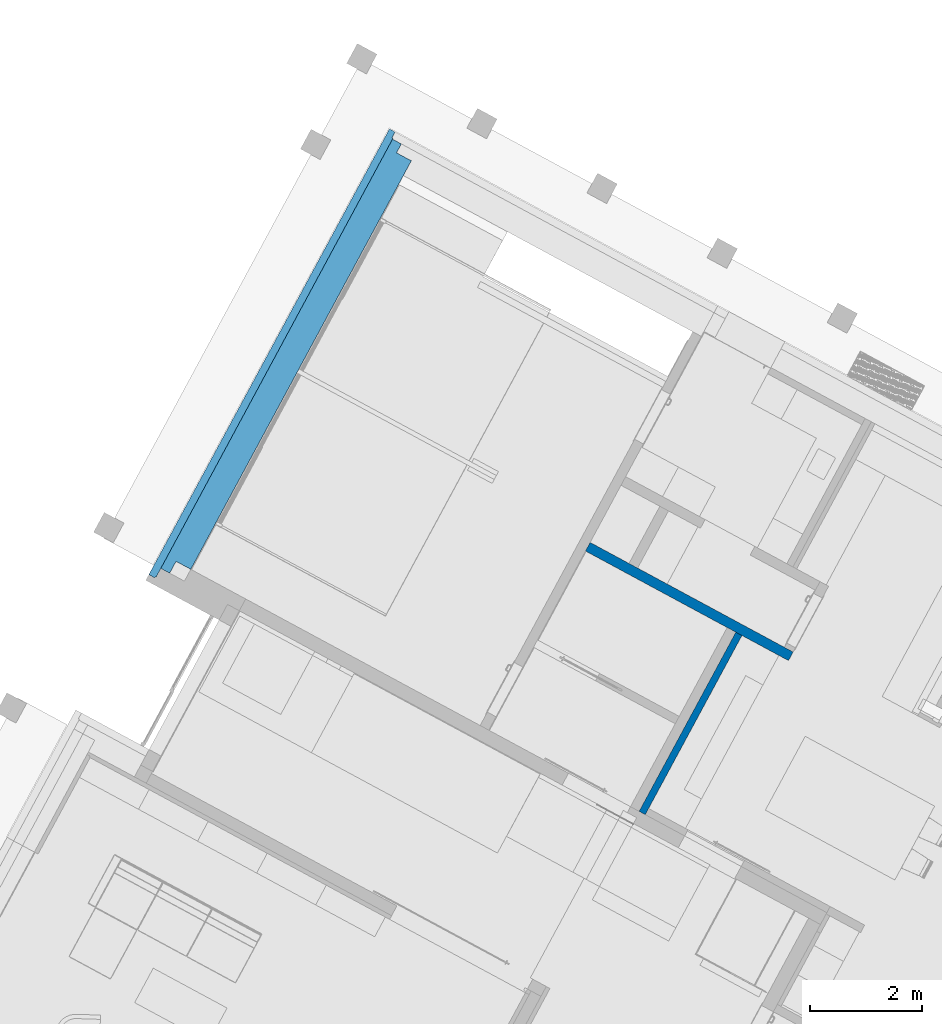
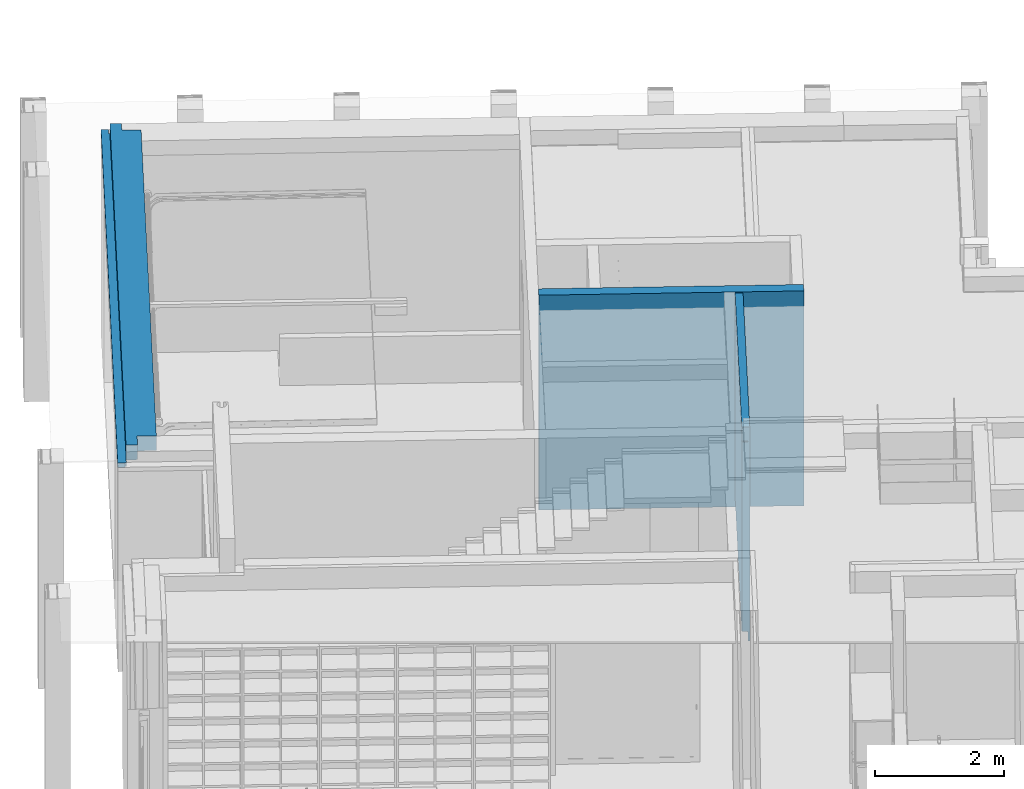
# One storey, part 17 of 52: 3 walls.
"""IFC2X3 building model written with IfcOpenShell, lengths in metres."""

from ifc_helpers import new_model, entity, si_unit, converted_unit, derived_unit, money_unit, direction, frame, origin_with_axes, place, context, subcontext, project, spatial, faceted_brep, material, material_list, type_object, element, save


model = new_model("IFC2X3")

# Units and contexts
model_context = context("Model", 3, precision=1e-05, world=origin_with_axes(), true_north=direction((0.0, 1.0)))
body_context = subcontext(model_context, "Body", "Model", "MODEL_VIEW")
ifc_project = project(units=[si_unit("LENGTHUNIT", "METRE"), si_unit("AREAUNIT", "SQUARE_METRE"), si_unit("VOLUMEUNIT", "CUBIC_METRE"), converted_unit("PLANEANGLEUNIT", "DEGREE", entity("IfcPlaneAngleMeasure", 0.0174532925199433), si_unit("PLANEANGLEUNIT", "RADIAN"), dimensions=[0, 0, 0, 0, 0, 0, 0]), money_unit("EUR"), converted_unit("TIMEUNIT", "Year", entity("IfcTimeMeasure", 31556926.0), si_unit("TIMEUNIT", "SECOND"), dimensions=[0, 0, 1, 0, 0, 0, 0]), si_unit("MASSUNIT", "GRAM", prefix="KILO"), si_unit("THERMODYNAMICTEMPERATUREUNIT", "DEGREE_CELSIUS"), si_unit("LUMINOUSINTENSITYUNIT", "LUMEN"), si_unit("ENERGYUNIT", "JOULE", prefix="MEGA"), derived_unit("THERMALCONDUCTANCEUNIT", [(si_unit("POWERUNIT", "WATT"), 1), (si_unit("LENGTHUNIT", "METRE"), -1), (si_unit("THERMODYNAMICTEMPERATUREUNIT", "KELVIN"), -1)]), derived_unit("SPECIFICHEATCAPACITYUNIT", [(si_unit("ENERGYUNIT", "JOULE"), 1), (si_unit("MASSUNIT", "GRAM", prefix="KILO"), -1), (si_unit("THERMODYNAMICTEMPERATUREUNIT", "KELVIN"), -1)]), derived_unit("MASSDENSITYUNIT", [(si_unit("MASSUNIT", "GRAM", prefix="KILO"), 1), (si_unit("VOLUMEUNIT", "CUBIC_METRE"), -1)])], contexts=[model_context])

# Site, building, storey
site_placement = place(None, frame((-3.949935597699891, 1.740105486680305, 0.0), z_axis=(0.0, 0.0, 1.0), x_axis=(0.8799804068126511, -0.475009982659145, 0.0)))
site = spatial("IfcSite", under=ifc_project, at=site_placement, Name="Gelände", CompositionType="ELEMENT")
building_placement = place(site_placement, origin_with_axes())
building = spatial("IfcBuilding", under=site, at=building_placement, Name="Gebäude", CompositionType="ELEMENT")
storey_placement = place(building_placement, origin_with_axes())
storey = spatial("IfcBuildingStorey", under=building, at=storey_placement, Name="Erdgeschoss", CompositionType="ELEMENT", Elevation=0.0)

# Walls
ifc_material_1 = material(Name="_SIWH - MW Kalksandstein")
wall_type_1 = type_object("IfcWallType", Name="_SIWH - WI | KS 17,5 | 17,5cm 175", PredefinedType="NOTDEFINED")
wall_1_placement = place(storey_placement, frame((10.53741421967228, 14.53808985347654, -0.18), z_axis=(0.0, 0.0, 1.0), x_axis=(0.9999999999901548, 4.437408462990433e-06, 0.0)))
element("IfcWall", 1, at=wall_1_placement, inside=storey, type_object=wall_type_1, material=ifc_material_1, Name="I-Wand028", context=body_context, shape_type="Brep", body=[
    faceted_brep([(5.735271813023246e-09, 0.1750000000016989, 0.0), (4.125546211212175, 0.1749816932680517, 0.0), (4.125546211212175, -1.830673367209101e-05, 0.0), (0.0, 0.0, 0.0), (5.735271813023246e-09, 0.1750000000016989, 4.080000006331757), (4.125546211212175, 0.1749816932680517, 4.080000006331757), (4.125546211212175, -1.830673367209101e-05, 4.080000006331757), (0.0, 0.0, 4.080000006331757)], [[[0, 1, 2, 3]], [[4, 5, 1, 0]], [[6, 2, 1, 5]], [[3, 2, 6, 7]], [[7, 4, 0, 3]], [[7, 6, 5, 4]]]),
])
ifc_material_2 = material(Name="_SIWH - MW Vormauerziegel")
ifc_material_3 = material(Name="_SIWH - Luftschicht vertikal")
ifc_material_4 = material(Name="_SIWH - Dämmung, weich Mineralwolle")
ifc_material_5 = material(Name="_SIWH - Beton, Stahlbeton")
ifc_material_list_1 = material_list([ifc_material_2, ifc_material_3, ifc_material_4, ifc_material_5])
wall_type_2 = type_object("IfcWallType", Name="_SIWH - Sturz Außenwand EG Garage 615 x 280", PredefinedType="NOTDEFINED")
wall_2_placement = place(storey_placement, frame((4.182518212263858, 10.65780061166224, 3.900000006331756), z_axis=(0.0, 0.0, 1.0), x_axis=(-4.263932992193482e-06, 0.9999999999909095, 0.0)))
element("IfcWall", 2, at=wall_2_placement, inside=storey, type_object=wall_type_2, material=ifc_material_list_1, Name="A-Wand018", context=body_context, shape_type="Brep", body=[
    faceted_brep([(-0.199998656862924, 0.3149999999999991, -0.2000000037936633), (-0.1999991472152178, 0.1999999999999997, -0.2000000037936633), (8.857501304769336, 0.1999999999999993, -0.1999999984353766), (8.857501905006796, 0.3149999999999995, -0.1999999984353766), (-0.1999991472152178, 0.1999999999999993, -0.2800000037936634), (-0.199998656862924, 0.3149999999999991, -0.2800000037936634), (8.857501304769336, 0.1999999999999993, -0.2800000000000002), (8.8575019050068, 0.3149999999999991, -0.2800000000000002)], [[[0, 1, 2, 3]], [[4, 1, 0, 5]], [[1, 4, 6, 2]], [[7, 3, 2, 6]], [[5, 0, 3, 7]], [[4, 5, 7, 6]]]),
    faceted_brep([(8.74250120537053, 0.1799999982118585, -0.2800000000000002), (8.74250120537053, 0.1799999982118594, -0.2000000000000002), (-0.1799992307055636, 0.1799999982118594, -0.2000000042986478), (-0.1799992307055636, 0.1799999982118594, -0.2800000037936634), (8.742501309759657, 0.1999999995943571, -0.2000000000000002), (8.742501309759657, 0.1999999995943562, -0.2800000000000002), (-0.1799991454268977, 0.1999999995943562, -0.2000000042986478), (-0.1799991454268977, 0.1999999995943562, -0.2800000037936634)], [[[0, 1, 2, 3]], [[4, 1, 0, 5]], [[1, 4, 6, 2]], [[3, 2, 6, 7]], [[5, 0, 3, 7]], [[4, 5, 7, 6]]]),
    faceted_brep([(7.671854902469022e-07, 0.1799999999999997, -4.2952486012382e-09), (-3.224478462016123e-10, 0.0, -4.2952486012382e-09), (8.722500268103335, 0.0, -5.96047655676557e-10), (8.722501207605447, 0.1799999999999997, -5.96047655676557e-10), (-3.224567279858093e-10, -1.788142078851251e-09, -0.2000000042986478), (7.671854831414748e-07, 0.1799999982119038, -0.2000000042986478), (-3.224478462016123e-10, 0.0, -0.2800000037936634), (8.722500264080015, 0.0, -0.2800000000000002), (8.72250026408, -1.788119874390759e-09, -0.1999999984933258), (8.72250120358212, 0.179999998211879, -0.1999999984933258), (7.671854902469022e-07, 0.1800000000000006, -0.2800000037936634), (8.722501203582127, 0.1799999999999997, -0.2800000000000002)], [[[0, 1, 2, 3]], [[4, 1, 0, 5]], [[1, 4, 6, 7, 8, 2]], [[8, 9, 3, 2]], [[5, 0, 3, 9]], [[4, 5, 10, 6]], [[11, 7, 6, 10]], [[9, 8, 7, 11]], [[9, 11, 10, 5]]]),
    faceted_brep([(8.54249869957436, -0.2999999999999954, -0.2000000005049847), (8.54249869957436, -0.2999999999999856, 0.0), (0.2399987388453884, -0.2999999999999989, -3.793663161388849e-09), (0.2399987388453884, -0.2999999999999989, -0.2000000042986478), (0.2399987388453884, -0.2999999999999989, -0.2800000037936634), (8.542498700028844, -0.2999999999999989, -0.2800000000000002), (8.542500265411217, 0.0, 0.0), (8.542500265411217, 0.0, -0.2000000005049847), (0.2400000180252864, 0.0, -3.793663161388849e-09), (0.2400000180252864, 0.0, -0.2000000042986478), (0.2400000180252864, 0.0, -0.2800000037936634), (8.542500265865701, 0.0, -0.2800000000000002)], [[[0, 1, 2, 3, 4, 5]], [[6, 1, 0, 7]], [[1, 6, 8, 2]], [[3, 2, 8, 9]], [[3, 9, 10, 4]], [[11, 5, 4, 10]], [[7, 0, 5, 11]], [[6, 7, 11, 10, 9, 8]]]),
])
ifc_material_6 = material(Name="_SIWH - Installationswand, raumhoch")
ifc_material_7 = material(Name="_SIWH - Gipskarton")
ifc_material_list_2 = material_list([ifc_material_6, ifc_material_7, ifc_material_7])
wall_type_3 = type_object("IfcWallType", Name="_SIWH - WI | Vorsatz-GK 2-lagig | 12,5cm 125", PredefinedType="NOTDEFINED")
wall_3_placement = place(storey_placement, frame((13.59248774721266, 10.89783494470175, -0.3200000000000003), z_axis=(0.0, 0.0, 1.0), x_axis=(-4.437408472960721e-06, 0.9999999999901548, 0.0)))
element("IfcWall", 3, at=wall_3_placement, inside=storey, type_object=wall_type_3, material=ifc_material_list_2, Name="L-Wand010", context=body_context, shape_type="Brep", body=[
    faceted_brep([(3.640254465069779, -0.09999999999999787, 3.920000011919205), (-3.477679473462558e-05, -0.09999999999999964, 3.920000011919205), (-3.477679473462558e-05, -0.09999999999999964, 0.3200000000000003), (3.640254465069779, -0.09999999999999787, 0.3200000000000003), (-3.433305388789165e-05, 0.0, 3.920000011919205), (3.640254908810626, 0.0, 3.920000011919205), (-3.433305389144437e-05, -8.543086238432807e-10, 0.3200000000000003), (3.640254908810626, 0.0, 0.3200000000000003)], [[[0, 1, 2, 3]], [[4, 1, 0, 5]], [[1, 4, 6, 2]], [[3, 2, 6, 7]], [[5, 0, 3, 7]], [[4, 5, 7, 6]]]),
    faceted_brep([(-3.433305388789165e-05, 0.0, 3.935000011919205), (-3.477679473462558e-05, -0.09999999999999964, 3.935000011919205), (-3.477679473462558e-05, -0.09999999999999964, 4.200000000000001), (-3.433305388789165e-05, 0.0, 4.200000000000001), (3.640254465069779, -0.09999999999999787, 3.935000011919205), (3.640254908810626, 0.0, 3.935000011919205), (3.640254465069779, -0.09999999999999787, 4.2), (3.640254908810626, 0.0, 4.2)], [[[0, 1, 2, 3]], [[4, 1, 0, 5]], [[1, 4, 6, 2]], [[2, 6, 7, 3]], [[5, 0, 3, 7]], [[4, 5, 7, 6]]]),
    faceted_brep([(0.0, -0.09999999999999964, 0.1400000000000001), (0.0, -0.1124999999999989, 0.1400000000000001), (-3.483226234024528e-05, -0.1124999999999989, 0.1400000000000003), (-3.477679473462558e-05, -0.09999999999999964, 0.1400000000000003), (3.640254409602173, -0.1124999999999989, 0.1400000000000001), (3.640254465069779, -0.09999999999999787, 0.1400000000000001), (3.640254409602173, -0.1124999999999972, 4.2), (-3.483226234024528e-05, -0.1124999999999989, 4.200000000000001), (-3.477679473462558e-05, -0.09999999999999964, 4.200000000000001), (3.640254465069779, -0.09999999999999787, 4.2)], [[[0, 1, 2, 3]], [[4, 1, 0, 5]], [[1, 4, 6, 7, 2]], [[3, 2, 7, 8]], [[5, 0, 3, 8, 9]], [[4, 5, 9, 6]], [[7, 6, 9, 8]]]),
    faceted_brep([(0.0, -0.1124999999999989, 0.1400000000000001), (0.0, -0.125, 0.1400000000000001), (-3.488772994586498e-05, -0.125, 0.1400000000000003), (-3.483226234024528e-05, -0.1124999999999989, 0.1400000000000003), (3.640254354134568, -0.125, 0.1400000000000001), (3.640254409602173, -0.1124999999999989, 0.1400000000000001), (3.640254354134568, -0.1249999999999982, 4.2), (-3.488772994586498e-05, -0.125, 4.200000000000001), (-3.483226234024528e-05, -0.1125000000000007, 4.200000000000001), (3.640254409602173, -0.1124999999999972, 4.2)], [[[0, 1, 2, 3]], [[4, 1, 0, 5]], [[1, 4, 6, 7, 2]], [[3, 2, 7, 8]], [[5, 0, 3, 8, 9]], [[4, 5, 9, 6]], [[7, 6, 9, 8]]]),
])

save(model, "model.ifc")
